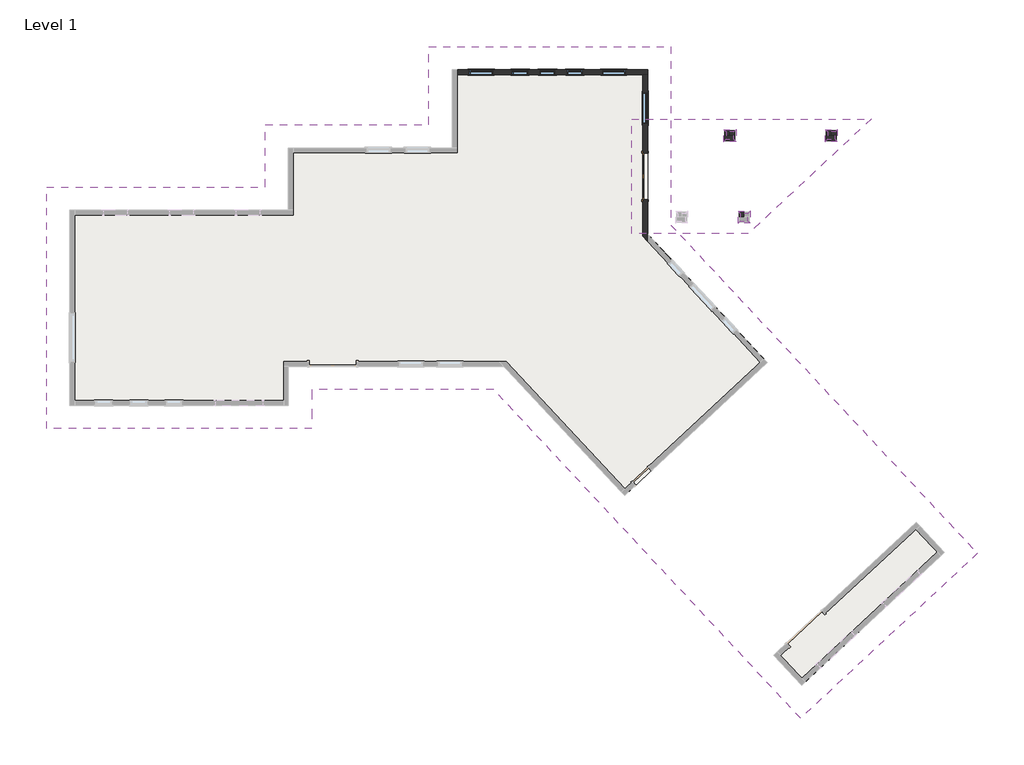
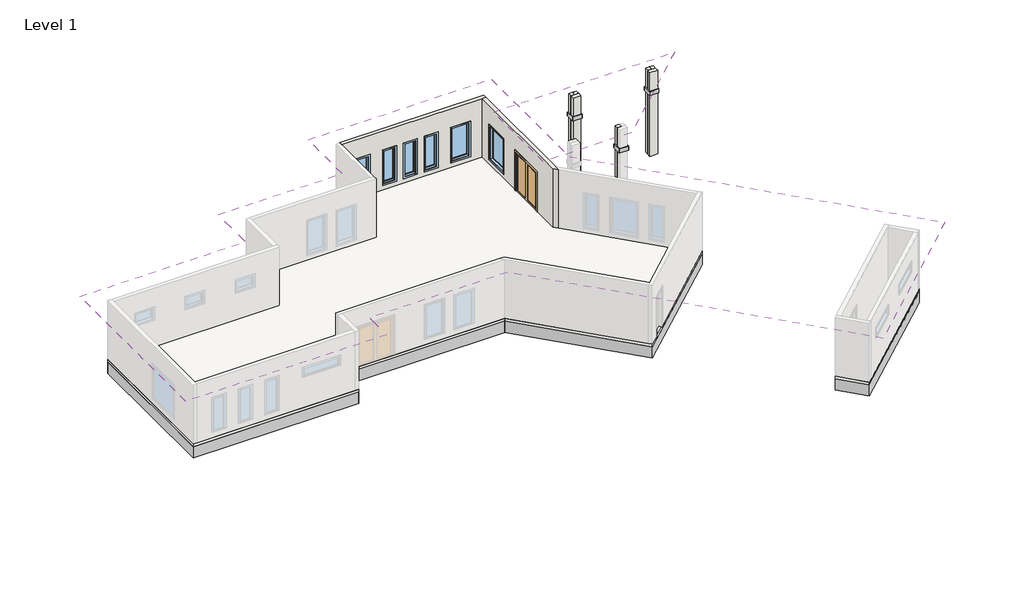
# One storey, part 2 of 2: 19 proxies, 12 walls, 6 windows, 2 roofs, 1 door, 1 slab.
"""IFC4 building model written with IfcOpenShell, lengths in millimetres."""

from ifc_helpers import new_model, si_unit, frame, origin, place, context, project, spatial, polyline, outline, extrude, faceted_brep, transform, mapped, element, save
from components import door_ae1b4af6, window_8ec664a6, window_e6bbc231, window_97fb18ba

model = new_model("IFC4")

# Units and contexts
model_context = context("Model", 3, world=origin())
ifc_project = project(units=[si_unit("LENGTHUNIT", "METRE", prefix="MILLI")], contexts=[model_context])

# Site, building, storey
site = spatial("IfcSite", under=ifc_project)
building = spatial("IfcBuilding", under=site)
storey = spatial("IfcBuildingStorey", under=building, Name="Level 1", Elevation=0.0)

# Proxies
placement = place(None, origin())
element("IfcBuildingElementProxy", 1, Name="Reveals", at=placement, inside=storey, context=model_context, shape_type="SweptSolid", body=[
    extrude(outline(polyline([(26090.8450389, 7110.4125), (26182.9200389, 7202.4875), (26478.1950389, 7202.4875), (26570.2700389, 7110.4125), (26090.8450389, 7110.4125)])), frame((0.0, 0.0, 2438.4), z_axis=(0.0, 0.0, 1.0), x_axis=(1.0, 0.0, 0.0)), (0.0, 0.0, 1.0), 203.2),
])
element("IfcBuildingElementProxy", 2, Name="Reveals", at=placement, inside=storey, context=model_context, shape_type="SweptSolid", body=[
    extrude(outline(polyline([(26570.2700389, 7110.4125), (26478.1950389, 7202.4875), (26478.1950389, 7497.7625), (26570.2700389, 7589.8375), (26570.2700389, 7110.4125)])), frame((0.0, 0.0, 2438.4), z_axis=(0.0, 0.0, 1.0), x_axis=(1.0, 0.0, 0.0)), (0.0, 0.0, 1.0), 203.2),
])
element("IfcBuildingElementProxy", 3, Name="Reveals", at=placement, inside=storey, context=model_context, shape_type="SweptSolid", body=[
    extrude(outline(polyline([(26570.2700389, 7589.8375), (26478.1950389, 7497.7625), (26182.9200389, 7497.7625), (26090.8450389, 7589.8375), (26570.2700389, 7589.8375)])), frame((0.0, 0.0, 2438.4), z_axis=(0.0, 0.0, 1.0), x_axis=(1.0, 0.0, 0.0)), (0.0, 0.0, 1.0), 203.2),
])
element("IfcBuildingElementProxy", 4, Name="Reveals", at=placement, inside=storey, context=model_context, shape_type="SweptSolid", body=[
    extrude(outline(polyline([(26182.9200389, 7202.4875), (26090.8450389, 7110.4125), (26090.8450389, 7589.8375), (26182.9200389, 7497.7625), (26182.9200389, 7202.4875)])), frame((0.0, 0.0, 2438.4), z_axis=(0.0, 0.0, 1.0), x_axis=(1.0, 0.0, 0.0)), (0.0, 0.0, 1.0), 203.2),
])
element("IfcBuildingElementProxy", 5, Name="Reveals", at=placement, inside=storey, context=model_context, shape_type="SweptSolid", body=[
    extrude(outline(polyline([(29494.5250352, 10301.2875), (29586.6000352, 10393.3625), (29881.8750352, 10393.3625), (29973.9500352, 10301.2875), (29494.5250352, 10301.2875)])), frame((0.0, 0.0, 2438.4), z_axis=(0.0, 0.0, 1.0), x_axis=(1.0, 0.0, 0.0)), (0.0, 0.0, 1.0), 203.2),
])
element("IfcBuildingElementProxy", 6, Name="Reveals", at=placement, inside=storey, context=model_context, shape_type="SweptSolid", body=[
    extrude(outline(polyline([(29973.9500352, 10301.2875), (29881.8750352, 10393.3625), (29881.8750352, 10688.6375), (29973.9500352, 10780.7125), (29973.9500352, 10301.2875)])), frame((0.0, 0.0, 2438.4), z_axis=(0.0, 0.0, 1.0), x_axis=(1.0, 0.0, 0.0)), (0.0, 0.0, 1.0), 203.2),
])
element("IfcBuildingElementProxy", 7, Name="Reveals", at=placement, inside=storey, context=model_context, shape_type="SweptSolid", body=[
    extrude(outline(polyline([(29973.9500352, 10780.7125), (29881.8750352, 10688.6375), (29586.6000352, 10688.6375), (29494.5250352, 10780.7125), (29973.9500352, 10780.7125)])), frame((0.0, 0.0, 2438.4), z_axis=(0.0, 0.0, 1.0), x_axis=(1.0, 0.0, 0.0)), (0.0, 0.0, 1.0), 203.2),
])
element("IfcBuildingElementProxy", 8, Name="Reveals", at=placement, inside=storey, context=model_context, shape_type="SweptSolid", body=[
    extrude(outline(polyline([(29586.6000352, 10393.3625), (29494.5250352, 10301.2875), (29494.5250352, 10780.7125), (29586.6000352, 10688.6375), (29586.6000352, 10393.3625)])), frame((0.0, 0.0, 2438.4), z_axis=(0.0, 0.0, 1.0), x_axis=(1.0, 0.0, 0.0)), (0.0, 0.0, 1.0), 203.2),
])
element("IfcBuildingElementProxy", 9, Name="Reveals", at=placement, inside=storey, context=model_context, shape_type="SweptSolid", body=[
    extrude(outline(polyline([(25532.1250352, 10301.2875), (25624.2000352, 10393.3625), (25919.4750352, 10393.3625), (26011.5500352, 10301.2875), (25532.1250352, 10301.2875)])), frame((0.0, 0.0, 2438.4), z_axis=(0.0, 0.0, 1.0), x_axis=(1.0, 0.0, 0.0)), (0.0, 0.0, 1.0), 203.2),
])
element("IfcBuildingElementProxy", 10, Name="Reveals", at=placement, inside=storey, context=model_context, shape_type="SweptSolid", body=[
    extrude(outline(polyline([(26011.5500352, 10301.2875), (25919.4750352, 10393.3625), (25919.4750352, 10688.6375), (26011.5500352, 10780.7125), (26011.5500352, 10301.2875)])), frame((0.0, 0.0, 2438.4), z_axis=(0.0, 0.0, 1.0), x_axis=(1.0, 0.0, 0.0)), (0.0, 0.0, 1.0), 203.2),
])
element("IfcBuildingElementProxy", 11, Name="Reveals", at=placement, inside=storey, context=model_context, shape_type="SweptSolid", body=[
    extrude(outline(polyline([(26011.5500352, 10780.7125), (25919.4750352, 10688.6375), (25624.2000352, 10688.6375), (25532.1250352, 10780.7125), (26011.5500352, 10780.7125)])), frame((0.0, 0.0, 2438.4), z_axis=(0.0, 0.0, 1.0), x_axis=(1.0, 0.0, 0.0)), (0.0, 0.0, 1.0), 203.2),
])
element("IfcBuildingElementProxy", 12, Name="Reveals", at=placement, inside=storey, context=model_context, shape_type="SweptSolid", body=[
    extrude(outline(polyline([(25624.2000352, 10393.3625), (25532.1250352, 10301.2875), (25532.1250352, 10780.7125), (25624.2000352, 10688.6375), (25624.2000352, 10393.3625)])), frame((0.0, 0.0, 2438.4), z_axis=(0.0, 0.0, 1.0), x_axis=(1.0, 0.0, 0.0)), (0.0, 0.0, 1.0), 203.2),
])
element("IfcBuildingElementProxy", 13, Name="Thickened 24\" x 12\"", ObjectType="Thickened 24\" x 12\"", at=placement, inside=storey, context=model_context, shape_type="Brep", body=[
    faceted_brep([(22555.2, 6683.5665602, -762.0), (22555.2, 6683.5665602, -152.4), (21945.6, 6443.4387342, -152.4), (22250.4, 6563.5026472, -457.2), (22250.4, 6563.5026472, -762.0), (22555.2, 13106.4, -762.0), (22250.4, 12801.6, -762.0), (22250.4, 12801.6, -457.2), (21945.6, 12496.8, -152.4), (22555.2, 13106.4, -152.4)], [[[0, 1, 2, 3, 4]], [[5, 6, 7, 8, 9]], [[1, 0, 5, 9]], [[2, 1, 9, 8]], [[4, 3, 7, 6]], [[0, 4, 6, 5]], [[3, 2, 8, 7]]]),
])
element("IfcBuildingElementProxy", 14, Name="Thickened 24\" x 12\"", ObjectType="Thickened 24\" x 12\"", at=placement, inside=storey, context=model_context, shape_type="Brep", body=[
    faceted_brep([(8534.4, 1524.0, -762.0), (8534.4, 1524.0, -152.4), (7924.8, 2133.6, -152.4), (8229.6, 1828.8, -457.2), (8229.6, 1828.8, -762.0), (16953.0353139, 1524.0, -762.0), (17085.5661258, 1828.8, -762.0), (17085.5661258, 1828.8, -457.2), (17218.0969376, 2133.6, -152.4), (16953.0353139, 1524.0, -152.4)], [[[0, 1, 2, 3, 4]], [[5, 6, 7, 8, 9]], [[1, 0, 5, 9]], [[2, 1, 9, 8]], [[3, 2, 8, 7]], [[4, 3, 7, 6]], [[0, 4, 6, 5]]]),
    faceted_brep([(8534.4, 0.0, -762.0), (8229.6, 304.8, -762.0), (8229.6, 304.8, -457.2), (7924.8, 609.6, -152.4), (8534.4, 0.0, -152.4), (0.0, 0.0, -152.4), (0.0, 0.0, -762.0), (609.6, 609.6, -152.4), (304.8, 304.8, -457.2), (304.8, 304.8, -762.0), (0.0, 7620.0, -762.0), (0.0, 7620.0, -152.4), (609.6, 7010.4, -152.4), (304.8, 7315.2, -457.2), (304.8, 7315.2, -762.0)], [[[0, 1, 2, 3, 4]], [[5, 6, 0, 4]], [[7, 5, 4, 3]], [[8, 7, 3, 2]], [[9, 8, 2, 1]], [[6, 9, 1, 0]], [[10, 11, 12, 13, 14]], [[11, 10, 6, 5]], [[12, 11, 5, 7]], [[13, 12, 7, 8]], [[14, 13, 8, 9]], [[10, 14, 9, 6]]]),
])
element("IfcBuildingElementProxy", 15, Name="Thickened 24\" x 12\"", ObjectType="Thickened 24\" x 12\"", at=placement, inside=storey, context=model_context, shape_type="Brep", body=[
    faceted_brep([(8534.4, 0.0, -762.0), (8534.4, 0.0, -152.4), (7924.8, 609.6, -152.4), (8229.6, 304.8, -457.2), (8229.6, 304.8, -762.0), (8534.4, 1524.0, -762.0), (8229.6, 1828.8, -762.0), (8229.6, 1828.8, -457.2), (7924.8, 2133.6, -152.4), (8534.4, 1524.0, -152.4)], [[[0, 1, 2, 3, 4]], [[5, 6, 7, 8, 9]], [[1, 0, 5, 9]], [[2, 1, 9, 8]], [[3, 2, 8, 7]], [[4, 3, 7, 6]], [[0, 4, 6, 5]]]),
])
element("IfcBuildingElementProxy", 16, Name="Thickened 24\" x 12\"", ObjectType="Thickened 24\" x 12\"", at=placement, inside=storey, context=model_context, shape_type="Brep", body=[
    faceted_brep([(22555.2, 13106.4, -762.0), (22555.2, 13106.4, -152.4), (21945.6, 12496.8, -152.4), (22250.4, 12801.6, -457.2), (22250.4, 12801.6, -762.0), (14935.2, 13106.4, -762.0), (14935.2, 13106.4, -152.4), (15544.8, 12496.8, -152.4), (15240.0, 12801.6, -457.2), (15240.0, 12801.6, -762.0), (14935.2, 10058.4, -762.0), (14935.2, 10058.4, -152.4), (15544.8, 9448.8, -152.4), (15240.0, 9753.6, -457.2), (15240.0, 9753.6, -762.0), (8534.4, 10058.4, -762.0), (8534.4, 10058.4, -152.4), (9144.0, 9448.8, -152.4), (8839.2, 9753.6, -457.2), (8839.2, 9753.6, -762.0), (8534.4, 7620.0, -762.0), (8534.4, 7620.0, -152.4), (9144.0, 7010.4, -152.4), (8839.2, 7315.2, -457.2), (8839.2, 7315.2, -762.0), (0.0, 7620.0, -762.0), (304.8, 7315.2, -762.0), (304.8, 7315.2, -457.2), (609.6, 7010.4, -152.4), (0.0, 7620.0, -152.4)], [[[0, 1, 2, 3, 4]], [[1, 0, 5, 6]], [[2, 1, 6, 7]], [[3, 2, 7, 8]], [[4, 3, 8, 9]], [[0, 4, 9, 5]], [[6, 5, 10, 11]], [[7, 6, 11, 12]], [[8, 7, 12, 13]], [[9, 8, 13, 14]], [[5, 9, 14, 10]], [[11, 10, 15, 16]], [[12, 11, 16, 17]], [[13, 12, 17, 18]], [[14, 13, 18, 19]], [[10, 14, 19, 15]], [[16, 15, 20, 21]], [[17, 16, 21, 22]], [[18, 17, 22, 23]], [[19, 18, 23, 24]], [[15, 19, 24, 20]], [[25, 26, 27, 28, 29]], [[21, 20, 25, 29]], [[22, 21, 29, 28]], [[23, 22, 28, 27]], [[24, 23, 27, 26]], [[20, 24, 26, 25]]]),
])
element("IfcBuildingElementProxy", 17, Name="Thickened 24\" x 12\"", ObjectType="Thickened 24\" x 12\"", at=placement, inside=storey, context=model_context, shape_type="Brep", body=[
    faceted_brep([(34145.5158441, -5745.5254903, -762.0), (34145.5158441, -5745.5254903, -152.4), (33283.9364273, -5715.4384741, -152.4), (33714.7261357, -5730.4819822, -457.2), (33714.7261357, -5730.4819822, -762.0), (33049.8513787, -4570.569201, -762.0), (33049.8513787, -4570.569201, -152.4), (33019.7643625, -5432.1486178, -152.4), (33034.8078706, -5001.3589094, -457.2), (33034.8078706, -5001.3589094, -762.0), (27479.8763511, -9764.6549437, -762.0), (27910.6660595, -9779.6984518, -762.0), (27910.6660595, -9779.6984518, -457.2), (28341.4557679, -9794.7419599, -152.4), (27479.8763511, -9764.6549437, -152.4)], [[[0, 1, 2, 3, 4]], [[1, 0, 5, 6]], [[2, 1, 6, 7]], [[3, 2, 7, 8]], [[4, 3, 8, 9]], [[0, 4, 9, 5]], [[10, 11, 12, 13, 14]], [[6, 5, 10, 14]], [[7, 6, 14, 13]], [[8, 7, 13, 12]], [[9, 8, 12, 11]], [[5, 9, 11, 10]]]),
])
element("IfcBuildingElementProxy", 18, Name="Thickened 24\" x 12\"", ObjectType="Thickened 24\" x 12\"", at=placement, inside=storey, context=model_context, shape_type="Brep", body=[
    faceted_brep([(27479.8763511, -9764.6549437, -762.0), (27479.8763511, -9764.6549437, -152.4), (28341.4557679, -9794.7419599, -152.4), (27910.6660595, -9779.6984518, -457.2), (27910.6660595, -9779.6984518, -762.0), (28575.5408164, -10939.611233, -762.0), (28575.5408164, -10939.611233, -152.4), (28605.6278327, -10078.0318162, -152.4), (28590.5843246, -10508.8215246, -457.2), (28590.5843246, -10508.8215246, -762.0), (34145.5158441, -5745.5254903, -762.0), (33714.7261357, -5730.4819822, -762.0), (33714.7261357, -5730.4819822, -457.2), (33283.9364273, -5715.4384741, -152.4), (34145.5158441, -5745.5254903, -152.4)], [[[0, 1, 2, 3, 4]], [[1, 0, 5, 6]], [[2, 1, 6, 7]], [[3, 2, 7, 8]], [[4, 3, 8, 9]], [[0, 4, 9, 5]], [[10, 11, 12, 13, 14]], [[6, 5, 10, 14]], [[7, 6, 14, 13]], [[8, 7, 13, 12]], [[9, 8, 12, 11]], [[5, 9, 11, 10]]]),
])
element("IfcBuildingElementProxy", 19, Name="Thickened 24\" x 12\"", ObjectType="Thickened 24\" x 12\"", at=placement, inside=storey, context=model_context, shape_type="Brep", body=[
    faceted_brep([(22555.2, 6683.5665602, -762.0), (22250.4, 6563.5026472, -762.0), (22250.4, 6563.5026472, -457.2), (21945.6, 6443.4387342, -152.4), (22555.2, 6683.5665602, -152.4), (27229.4045746, 1671.0958301, -152.4), (27229.4045746, 1671.0958301, -762.0), (26367.8251578, 1701.1828463, -152.4), (26798.6148662, 1686.1393382, -457.2), (26798.6148662, 1686.1393382, -762.0), (21659.429547, -3522.9899126, -152.4), (21659.429547, -3522.9899126, -762.0), (21689.5165632, -2661.4104958, -152.4), (21674.4730551, -3092.2002042, -457.2), (21674.4730551, -3092.2002042, -762.0), (16953.0353139, 1524.0, -762.0), (16953.0353139, 1524.0, -152.4), (17218.0969376, 2133.6, -152.4), (17085.5661258, 1828.8, -457.2), (17085.5661258, 1828.8, -762.0)], [[[0, 1, 2, 3, 4]], [[5, 6, 0, 4]], [[7, 5, 4, 3]], [[8, 7, 3, 2]], [[9, 8, 2, 1]], [[6, 9, 1, 0]], [[10, 11, 6, 5]], [[12, 10, 5, 7]], [[13, 12, 7, 8]], [[14, 13, 8, 9]], [[11, 14, 9, 6]], [[15, 16, 17, 18, 19]], [[16, 15, 11, 10]], [[17, 16, 10, 12]], [[18, 17, 12, 13]], [[19, 18, 13, 14]], [[15, 19, 14, 11]]]),
])

# Door
door_shape = door_ae1b4af6(model_context)
element("IfcDoor", 20, ObjectType="Double-Glass 1 : 72\" x 84\"", at=placement, inside=storey, context=model_context, shape_type="MappedRepresentation", body=[
    mapped(door_shape, transform((22460.74375, 8945.5625, 0.0), x_axis=(0.0, 1.0, 0.0), y_axis=(-1.0, 0.0, 0.0), z_axis=(0.0, 0.0, 1.0))),
])

# Roofs
element("IfcRoof", 21, ObjectType="Generic - 12\"", at=placement, inside=storey, context=model_context, shape_type="SweptSolid", body=[
    extrude(outline(polyline([(16555.4428782, 609.6), (9448.8, 609.6), (9448.8, -914.4), (-914.4, -914.4), (-914.4, 8534.4), (7620.0, 8534.4), (7620.0, 10972.8), (14020.8, 10972.8), (14020.8, 14020.8), (23469.6, 14020.8), (23469.6, 7049.6530157), (35440.825148, -5787.9142537), (28530.4102921, -12231.9803583), (16555.4428782, 609.6)])), frame((0.0, 0.0, 3200.4), z_axis=(0.0, 0.0, 1.0), x_axis=(1.0, 0.0, 0.0)), (0.0, 0.0, 1.0), 304.8),
])
element("IfcRoof", 22, ObjectType="Generic - 12\"", at=placement, inside=storey, context=model_context, shape_type="SweptSolid", body=[
    extrude(outline(polyline([(21945.6, 6710.2825037), (21945.6, 11180.8424963), (31288.3056898, 11180.8424963), (26494.2170375, 6710.2825037), (21945.6, 6710.2825037)])), frame((0.0, 0.0, 3657.6), z_axis=(0.0, 0.0, 1.0), x_axis=(1.0, 0.0, 0.0)), (0.0, 0.0, 1.0), 304.8),
])

# Slab
element("IfcSlab", 23, ObjectType="Concrete - 6\"", at=placement, inside=storey, context=model_context, shape_type="SweptSolid", body=[
    extrude(outline(polyline([(16953.0353139, 1524.0), (8534.4, 1524.0), (8534.4, 0.0), (0.0, 0.0), (0.0, 7620.0), (8534.4, 7620.0), (8534.4, 10058.4), (14935.2, 10058.4), (14935.2, 13106.4), (22555.2, 13106.4), (22555.2, 6683.5665602), (27229.4045746, 1671.0958301), (21659.429547, -3522.9899126), (16953.0353139, 1524.0)])), frame((0.0, 0.0, -152.4), z_axis=(0.0, 0.0, 1.0), x_axis=(1.0, 0.0, 0.0)), (0.0, 0.0, 1.0), 152.4),
    extrude(outline(polyline([(27479.8763511, -9764.6549437), (33049.8513787, -4570.569201), (34145.5158441, -5745.5254903), (28575.5408164, -10939.611233), (27479.8763511, -9764.6549437)])), frame((0.0, 0.0, -152.4), z_axis=(0.0, 0.0, 1.0), x_axis=(1.0, 0.0, 0.0)), (0.0, 0.0, 1.0), 152.4),
])

# Walls
element("IfcWall", 24, ObjectType="Column - 8\" Concrete", at=placement, inside=storey, context=model_context, shape_type="Brep", body=[
    faceted_brep([(26335.3200389, 7548.5625, -914.4), (26132.1200389, 7548.5625, -914.4), (26132.1200389, 7548.5625, 2438.4), (26335.3200389, 7548.5625, 2438.4), (26132.1200389, 7548.5625, 3657.6), (26335.3200389, 7548.5625, 3657.6), (26335.3200389, 7548.5625, 2641.6), (26132.1200389, 7548.5625, 2641.6), (26132.1200389, 7354.8875, -914.4), (26325.7950389, 7354.8875, -914.4), (26335.3200389, 7354.8875, -914.4), (26335.3200389, 7354.8875, 3657.6), (26325.7950389, 7354.8875, 3657.6), (26132.1200389, 7354.8875, 3657.6), (26132.1200389, 7354.8875, 2641.6), (26182.9200389, 7354.8875, 2641.6), (26182.9200389, 7354.8875, 2438.4), (26132.1200389, 7354.8875, 2438.4), (26335.3200389, 7497.7625, 2438.4), (26335.3200389, 7497.7625, 2641.6), (26182.9200389, 7497.7625, 2641.6), (26182.9200389, 7497.7625, 2438.4)], [[[0, 1, 2, 3]], [[4, 5, 6, 7]], [[8, 9, 10, 11, 12, 13, 14, 15, 16, 17]], [[1, 0, 10, 9, 8]], [[11, 10, 0, 3, 18, 19, 6, 5]], [[19, 20, 15, 14, 7, 6]], [[16, 21, 18, 3, 2, 17]], [[21, 20, 19, 18]], [[1, 8, 17, 2]], [[13, 4, 7, 14]], [[20, 21, 16, 15]], [[5, 4, 13, 12, 11]]]),
])
element("IfcWall", 25, ObjectType="Column - 8\" Concrete", at=placement, inside=storey, context=model_context, shape_type="SweptSolid", body=[
    extrude(outline(polyline([(-914.4, 26325.7950389), (3657.6, 26325.7950389), (3657.6, 26132.1200389), (2641.6, 26132.1200389), (2641.6, 26182.9200389), (2438.4, 26182.9200389), (2438.4, 26132.1200389), (-914.4, 26132.1200389), (-914.4, 26325.7950389)])), frame((0.0, 7345.3625, 0.0), z_axis=(0.0, 1.0, 0.0), x_axis=(0.0, 0.0, 1.0)), (0.0, 0.0, 1.0), 9.525),
])
element("IfcWall", 26, ObjectType="Column - 8\" Concrete", at=placement, inside=storey, context=model_context, shape_type="Brep", body=[
    faceted_brep([(29535.8000352, 10342.5625, -914.4), (29932.6750352, 10342.5625, -914.4), (29932.6750352, 10342.5625, 2438.4), (29535.8000352, 10342.5625, 2438.4), (29932.6750352, 10342.5625, 3657.6), (29535.8000352, 10342.5625, 3657.6), (29535.8000352, 10342.5625, 2641.6), (29932.6750352, 10342.5625, 2641.6), (29932.6750352, 10536.2375, -914.4), (29739.0000352, 10536.2375, -914.4), (29729.4750352, 10536.2375, -914.4), (29535.8000352, 10536.2375, -914.4), (29535.8000352, 10536.2375, 2438.4), (29586.6000352, 10536.2375, 2438.4), (29586.6000352, 10536.2375, 2641.6), (29535.8000352, 10536.2375, 2641.6), (29535.8000352, 10536.2375, 3657.6), (29729.4750352, 10536.2375, 3657.6), (29739.0000352, 10536.2375, 3657.6), (29932.6750352, 10536.2375, 3657.6), (29932.6750352, 10536.2375, 2641.6), (29881.8750352, 10536.2375, 2641.6), (29881.8750352, 10536.2375, 2438.4), (29932.6750352, 10536.2375, 2438.4), (29586.6000352, 10393.3625, 2641.6), (29586.6000352, 10393.3625, 2438.4), (29881.8750352, 10393.3625, 2438.4), (29881.8750352, 10393.3625, 2641.6)], [[[0, 1, 2, 3]], [[4, 5, 6, 7]], [[8, 9, 10, 11, 12, 13, 14, 15, 16, 17, 18, 19, 20, 21, 22, 23]], [[1, 0, 11, 10, 9, 8]], [[1, 8, 23, 2]], [[19, 4, 7, 20]], [[24, 25, 26, 27]], [[27, 26, 22, 21]], [[11, 0, 3, 12]], [[5, 16, 15, 6]], [[24, 27, 21, 20, 7, 6, 15, 14]], [[26, 25, 13, 12, 3, 2, 23, 22]], [[25, 24, 14, 13]], [[5, 4, 19, 18, 17, 16]]]),
])
element("IfcWall", 27, ObjectType="Column - 8\" Concrete", at=placement, inside=storey, context=model_context, shape_type="Brep", body=[
    faceted_brep([(29932.6750352, 10536.2375, -914.4), (29932.6750352, 10739.4375, -914.4), (29932.6750352, 10739.4375, 2438.4), (29932.6750352, 10536.2375, 2438.4), (29932.6750352, 10739.4375, 3657.6), (29932.6750352, 10536.2375, 3657.6), (29932.6750352, 10536.2375, 2641.6), (29932.6750352, 10739.4375, 2641.6), (29739.0000352, 10739.4375, -914.4), (29739.0000352, 10545.7625, -914.4), (29739.0000352, 10536.2375, -914.4), (29739.0000352, 10536.2375, 3657.6), (29739.0000352, 10545.7625, 3657.6), (29739.0000352, 10739.4375, 3657.6), (29739.0000352, 10739.4375, 2641.6), (29739.0000352, 10688.6375, 2641.6), (29739.0000352, 10688.6375, 2438.4), (29739.0000352, 10739.4375, 2438.4), (29881.8750352, 10536.2375, 2438.4), (29881.8750352, 10536.2375, 2641.6), (29881.8750352, 10688.6375, 2641.6), (29881.8750352, 10688.6375, 2438.4)], [[[0, 1, 2, 3]], [[4, 5, 6, 7]], [[8, 9, 10, 11, 12, 13, 14, 15, 16, 17]], [[1, 0, 10, 9, 8]], [[11, 10, 0, 3, 18, 19, 6, 5]], [[1, 8, 17, 2]], [[13, 4, 7, 14]], [[19, 20, 15, 14, 7, 6]], [[16, 21, 18, 3, 2, 17]], [[21, 20, 19, 18]], [[20, 21, 16, 15]], [[5, 4, 13, 12, 11]]]),
])
element("IfcWall", 28, ObjectType="Column - 8\" Concrete", at=placement, inside=storey, context=model_context, shape_type="Brep", body=[
    faceted_brep([(29739.0000352, 10739.4375, -914.4), (29535.8000352, 10739.4375, -914.4), (29535.8000352, 10739.4375, 2438.4), (29739.0000352, 10739.4375, 2438.4), (29535.8000352, 10739.4375, 3657.6), (29739.0000352, 10739.4375, 3657.6), (29739.0000352, 10739.4375, 2641.6), (29535.8000352, 10739.4375, 2641.6), (29535.8000352, 10545.7625, -914.4), (29729.4750352, 10545.7625, -914.4), (29739.0000352, 10545.7625, -914.4), (29739.0000352, 10545.7625, 3657.6), (29729.4750352, 10545.7625, 3657.6), (29535.8000352, 10545.7625, 3657.6), (29535.8000352, 10545.7625, 2641.6), (29586.6000352, 10545.7625, 2641.6), (29586.6000352, 10545.7625, 2438.4), (29535.8000352, 10545.7625, 2438.4), (29739.0000352, 10688.6375, 2438.4), (29739.0000352, 10688.6375, 2641.6), (29586.6000352, 10688.6375, 2641.6), (29586.6000352, 10688.6375, 2438.4)], [[[0, 1, 2, 3]], [[4, 5, 6, 7]], [[8, 9, 10, 11, 12, 13, 14, 15, 16, 17]], [[1, 0, 10, 9, 8]], [[11, 10, 0, 3, 18, 19, 6, 5]], [[19, 20, 15, 14, 7, 6]], [[16, 21, 18, 3, 2, 17]], [[21, 20, 19, 18]], [[1, 8, 17, 2]], [[13, 4, 7, 14]], [[20, 21, 16, 15]], [[5, 4, 13, 12, 11]]]),
])
element("IfcWall", 29, ObjectType="Column - 8\" Concrete", at=placement, inside=storey, context=model_context, shape_type="SweptSolid", body=[
    extrude(outline(polyline([(-914.4, 29729.4750352), (3657.6, 29729.4750352), (3657.6, 29535.8000352), (2641.6, 29535.8000352), (2641.6, 29586.6000352), (2438.4, 29586.6000352), (2438.4, 29535.8000352), (-914.4, 29535.8000352), (-914.4, 29729.4750352)])), frame((0.0, 10536.2375, 0.0), z_axis=(0.0, 1.0, 0.0), x_axis=(0.0, 0.0, 1.0)), (0.0, 0.0, 1.0), 9.525),
])
element("IfcWall", 30, ObjectType="Column - 8\" Concrete", at=placement, inside=storey, context=model_context, shape_type="Brep", body=[
    faceted_brep([(25573.4000352, 10342.5625, -914.4), (25970.2750352, 10342.5625, -914.4), (25970.2750352, 10342.5625, 2438.4), (25573.4000352, 10342.5625, 2438.4), (25970.2750352, 10342.5625, 3657.6), (25573.4000352, 10342.5625, 3657.6), (25573.4000352, 10342.5625, 2641.6), (25970.2750352, 10342.5625, 2641.6), (25970.2750352, 10536.2375, -914.4), (25776.6000352, 10536.2375, -914.4), (25767.0750352, 10536.2375, -914.4), (25573.4000352, 10536.2375, -914.4), (25573.4000352, 10536.2375, 2438.4), (25624.2000352, 10536.2375, 2438.4), (25624.2000352, 10536.2375, 2641.6), (25573.4000352, 10536.2375, 2641.6), (25573.4000352, 10536.2375, 3657.6), (25767.0750352, 10536.2375, 3657.6), (25776.6000352, 10536.2375, 3657.6), (25970.2750352, 10536.2375, 3657.6), (25970.2750352, 10536.2375, 2641.6), (25919.4750352, 10536.2375, 2641.6), (25919.4750352, 10536.2375, 2438.4), (25970.2750352, 10536.2375, 2438.4), (25624.2000352, 10393.3625, 2641.6), (25624.2000352, 10393.3625, 2438.4), (25919.4750352, 10393.3625, 2438.4), (25919.4750352, 10393.3625, 2641.6)], [[[0, 1, 2, 3]], [[4, 5, 6, 7]], [[8, 9, 10, 11, 12, 13, 14, 15, 16, 17, 18, 19, 20, 21, 22, 23]], [[1, 0, 11, 10, 9, 8]], [[1, 8, 23, 2]], [[19, 4, 7, 20]], [[24, 25, 26, 27]], [[27, 26, 22, 21]], [[11, 0, 3, 12]], [[5, 16, 15, 6]], [[24, 27, 21, 20, 7, 6, 15, 14]], [[26, 25, 13, 12, 3, 2, 23, 22]], [[25, 24, 14, 13]], [[5, 4, 19, 18, 17, 16]]]),
])
element("IfcWall", 31, ObjectType="Column - 8\" Concrete", at=placement, inside=storey, context=model_context, shape_type="Brep", body=[
    faceted_brep([(25970.2750352, 10536.2375, -914.4), (25970.2750352, 10739.4375, -914.4), (25970.2750352, 10739.4375, 2438.4), (25970.2750352, 10536.2375, 2438.4), (25970.2750352, 10739.4375, 3657.6), (25970.2750352, 10536.2375, 3657.6), (25970.2750352, 10536.2375, 2641.6), (25970.2750352, 10739.4375, 2641.6), (25776.6000352, 10739.4375, -914.4), (25776.6000352, 10545.7625, -914.4), (25776.6000352, 10536.2375, -914.4), (25776.6000352, 10536.2375, 3657.6), (25776.6000352, 10545.7625, 3657.6), (25776.6000352, 10739.4375, 3657.6), (25776.6000352, 10739.4375, 2641.6), (25776.6000352, 10688.6375, 2641.6), (25776.6000352, 10688.6375, 2438.4), (25776.6000352, 10739.4375, 2438.4), (25919.4750352, 10536.2375, 2438.4), (25919.4750352, 10536.2375, 2641.6), (25919.4750352, 10688.6375, 2641.6), (25919.4750352, 10688.6375, 2438.4)], [[[0, 1, 2, 3]], [[4, 5, 6, 7]], [[8, 9, 10, 11, 12, 13, 14, 15, 16, 17]], [[1, 0, 10, 9, 8]], [[11, 10, 0, 3, 18, 19, 6, 5]], [[1, 8, 17, 2]], [[13, 4, 7, 14]], [[19, 20, 15, 14, 7, 6]], [[16, 21, 18, 3, 2, 17]], [[21, 20, 19, 18]], [[20, 21, 16, 15]], [[5, 4, 13, 12, 11]]]),
])
element("IfcWall", 32, ObjectType="Column - 8\" Concrete", at=placement, inside=storey, context=model_context, shape_type="Brep", body=[
    faceted_brep([(25776.6000352, 10739.4375, -914.4), (25573.4000352, 10739.4375, -914.4), (25573.4000352, 10739.4375, 2438.4), (25776.6000352, 10739.4375, 2438.4), (25573.4000352, 10739.4375, 3657.6), (25776.6000352, 10739.4375, 3657.6), (25776.6000352, 10739.4375, 2641.6), (25573.4000352, 10739.4375, 2641.6), (25573.4000352, 10545.7625, -914.4), (25767.0750352, 10545.7625, -914.4), (25776.6000352, 10545.7625, -914.4), (25776.6000352, 10545.7625, 3657.6), (25767.0750352, 10545.7625, 3657.6), (25573.4000352, 10545.7625, 3657.6), (25573.4000352, 10545.7625, 2641.6), (25624.2000352, 10545.7625, 2641.6), (25624.2000352, 10545.7625, 2438.4), (25573.4000352, 10545.7625, 2438.4), (25776.6000352, 10688.6375, 2438.4), (25776.6000352, 10688.6375, 2641.6), (25624.2000352, 10688.6375, 2641.6), (25624.2000352, 10688.6375, 2438.4)], [[[0, 1, 2, 3]], [[4, 5, 6, 7]], [[8, 9, 10, 11, 12, 13, 14, 15, 16, 17]], [[1, 0, 10, 9, 8]], [[11, 10, 0, 3, 18, 19, 6, 5]], [[19, 20, 15, 14, 7, 6]], [[16, 21, 18, 3, 2, 17]], [[21, 20, 19, 18]], [[1, 8, 17, 2]], [[13, 4, 7, 14]], [[20, 21, 16, 15]], [[5, 4, 13, 12, 11]]]),
])
element("IfcWall", 33, ObjectType="Column - 8\" Concrete", at=placement, inside=storey, context=model_context, shape_type="SweptSolid", body=[
    extrude(outline(polyline([(-914.4, 25767.0750352), (3657.6, 25767.0750352), (3657.6, 25573.4000352), (2641.6, 25573.4000352), (2641.6, 25624.2000352), (2438.4, 25624.2000352), (2438.4, 25573.4000352), (-914.4, 25573.4000352), (-914.4, 25767.0750352)])), frame((0.0, 10536.2375, 0.0), z_axis=(0.0, 1.0, 0.0), x_axis=(0.0, 0.0, 1.0)), (0.0, 0.0, 1.0), 9.525),
])
element("IfcWall", 34, ObjectType="Generic - 8\" Concrete", at=placement, inside=storey, context=model_context, shape_type="Brep", body=[
    faceted_brep([(15128.875, 12912.725, 0.0), (22361.525, 12912.725, 0.0), (22555.2, 12912.725, 0.0), (22555.2, 12912.725, 3200.4), (22361.525, 12912.725, 3200.4), (15128.875, 12912.725, 3200.4), (16514.7625, 12912.725, 2133.6), (16514.7625, 12912.725, 304.8), (15600.3625, 12912.725, 304.8), (15600.3625, 12912.725, 2133.6), (21696.3625, 12912.725, 2133.6), (21696.3625, 12912.725, 304.8), (20781.9625, 12912.725, 304.8), (20781.9625, 12912.725, 2133.6), (20019.9625, 12912.725, 2133.6), (20019.9625, 12912.725, 304.8), (19410.3625, 12912.725, 304.8), (19410.3625, 12912.725, 2133.6), (17886.3625, 12912.725, 2133.6), (17886.3625, 12912.725, 304.8), (17276.7625, 12912.725, 304.8), (17276.7625, 12912.725, 2133.6), (18953.1625, 12912.725, 2133.6), (18953.1625, 12912.725, 304.8), (18343.5625, 12912.725, 304.8), (18343.5625, 12912.725, 2133.6), (22555.2, 13106.4, 0.0), (15128.875, 13106.4, 0.0), (15128.875, 13106.4, 3200.4), (22555.2, 13106.4, 3200.4), (16514.7625, 13106.4, 2133.6), (15600.3625, 13106.4, 2133.6), (15600.3625, 13106.4, 304.8), (16514.7625, 13106.4, 304.8), (21696.3625, 13106.4, 304.8), (21696.3625, 13106.4, 2133.6), (20781.9625, 13106.4, 2133.6), (20781.9625, 13106.4, 304.8), (20019.9625, 13106.4, 304.8), (20019.9625, 13106.4, 2133.6), (19410.3625, 13106.4, 2133.6), (19410.3625, 13106.4, 304.8), (17886.3625, 13106.4, 304.8), (17886.3625, 13106.4, 2133.6), (17276.7625, 13106.4, 2133.6), (17276.7625, 13106.4, 304.8), (18953.1625, 13106.4, 304.8), (18953.1625, 13106.4, 2133.6), (18343.5625, 13106.4, 2133.6), (18343.5625, 13106.4, 304.8)], [[[0, 1, 2, 3, 4, 5], [6, 7, 8, 9], [10, 11, 12, 13], [14, 15, 16, 17], [18, 19, 20, 21], [22, 23, 24, 25]], [[26, 27, 28, 29], [30, 31, 32, 33], [34, 35, 36, 37], [38, 39, 40, 41], [42, 43, 44, 45], [46, 47, 48, 49]], [[2, 1, 0, 27, 26]], [[0, 5, 28, 27]], [[3, 2, 26, 29]], [[7, 6, 30, 33]], [[8, 7, 33, 32]], [[9, 8, 32, 31]], [[6, 9, 31, 30]], [[11, 10, 35, 34]], [[12, 11, 34, 37]], [[13, 12, 37, 36]], [[10, 13, 36, 35]], [[15, 14, 39, 38]], [[16, 15, 38, 41]], [[17, 16, 41, 40]], [[14, 17, 40, 39]], [[19, 18, 43, 42]], [[20, 19, 42, 45]], [[21, 20, 45, 44]], [[18, 21, 44, 43]], [[22, 47, 46, 23]], [[23, 46, 49, 24]], [[24, 49, 48, 25]], [[47, 22, 25, 48]], [[5, 4, 3, 29, 28]]]),
])
element("IfcWall", 35, ObjectType="Generic - 8\" Concrete", at=placement, inside=storey, context=model_context, shape_type="Brep", body=[
    faceted_brep([(22361.525, 12912.725, 3200.4), (22361.525, 12912.725, 0.0), (22361.525, 9859.9625, 0.0), (22361.525, 9859.9625, 2133.6), (22361.525, 8031.1625, 2133.6), (22361.525, 8031.1625, 0.0), (22361.525, 6607.2759488, 0.0), (22361.525, 6607.2759488, 3200.4), (22361.525, 12222.1625, 2133.6), (22361.525, 11002.9625, 2133.6), (22361.525, 11002.9625, 304.8), (22361.525, 12222.1625, 304.8), (22555.2, 12912.725, 0.0), (22555.2, 12912.725, 3200.4), (22555.2, 6683.5665602, 3200.4), (22555.2, 6399.5849389, 3200.4), (22555.2, 6399.5849389, 0.0), (22555.2, 6683.5665602, 0.0), (22555.2, 8031.1625, 0.0), (22555.2, 8031.1625, 2133.6), (22555.2, 9859.9625, 2133.6), (22555.2, 9859.9625, 0.0), (22555.2, 12222.1625, 2133.6), (22555.2, 12222.1625, 304.8), (22555.2, 11002.9625, 304.8), (22555.2, 11002.9625, 2133.6)], [[[0, 1, 2, 3, 4, 5, 6, 7], [8, 9, 10, 11]], [[12, 13, 14, 15, 16, 17, 18, 19, 20, 21], [22, 23, 24, 25]], [[1, 12, 21, 2]], [[16, 6, 5, 18, 17]], [[1, 0, 13, 12]], [[20, 3, 2, 21]], [[3, 20, 19, 4]], [[4, 19, 18, 5]], [[0, 7, 15, 14, 13]], [[23, 22, 8, 11]], [[24, 23, 11, 10]], [[25, 24, 10, 9]], [[22, 25, 9, 8]], [[7, 6, 16, 15]]]),
])

# Windows
window_shape = window_8ec664a6(model_context)
element("IfcWindow", 36, ObjectType="Casement with Trim : 24\" x 72\"", at=placement, inside=storey, context=model_context, shape_type="MappedRepresentation", body=[
    mapped(window_shape, transform((19715.1625, 13009.5625, 0.0), x_axis=(1.0, 0.0, 0.0), y_axis=(0.0, 1.0, 0.0), z_axis=(0.0, 0.0, 1.0))),
])
element("IfcWindow", 37, ObjectType="Casement with Trim : 24\" x 72\"", at=placement, inside=storey, context=model_context, shape_type="MappedRepresentation", body=[
    mapped(window_shape, transform((17581.5625, 13009.5625, 0.0), x_axis=(1.0, 0.0, 0.0), y_axis=(0.0, 1.0, 0.0), z_axis=(0.0, 0.0, 1.0))),
])
element("IfcWindow", 38, ObjectType="Casement with Trim : 24\" x 72\"", at=placement, inside=storey, context=model_context, shape_type="MappedRepresentation", body=[
    mapped(window_shape, transform((18648.3625, 13009.5625, 0.0), x_axis=(1.0, 0.0, 0.0), y_axis=(0.0, 1.0, 0.0), z_axis=(0.0, 0.0, 1.0))),
])
window_2_shape = window_e6bbc231(model_context)
element("IfcWindow", 39, ObjectType="Casement with Trim : 36\" x 72\"", at=placement, inside=storey, context=model_context, shape_type="MappedRepresentation", body=[
    mapped(window_2_shape, transform((16057.5625, 13009.5625, 0.0), x_axis=(1.0, 0.0, 0.0), y_axis=(0.0, 1.0, 0.0), z_axis=(0.0, 0.0, 1.0))),
])
element("IfcWindow", 40, ObjectType="Casement with Trim : 36\" x 72\"", at=placement, inside=storey, context=model_context, shape_type="MappedRepresentation", body=[
    mapped(window_2_shape, transform((21239.1625, 13009.5625, 0.0), x_axis=(1.0, 0.0, 0.0), y_axis=(0.0, 1.0, 0.0), z_axis=(0.0, 0.0, 1.0))),
])
window_3_shape = window_97fb18ba(model_context)
element("IfcWindow", 41, ObjectType="Casement with Trim : 48\" x 72\"", at=placement, inside=storey, context=model_context, shape_type="MappedRepresentation", body=[
    mapped(window_3_shape, transform((22458.3625, 11612.5625, 0.0), x_axis=(0.0, 1.0, 0.0), y_axis=(-1.0, 0.0, 0.0), z_axis=(0.0, 0.0, 1.0))),
])

save(model, "model.ifc")
